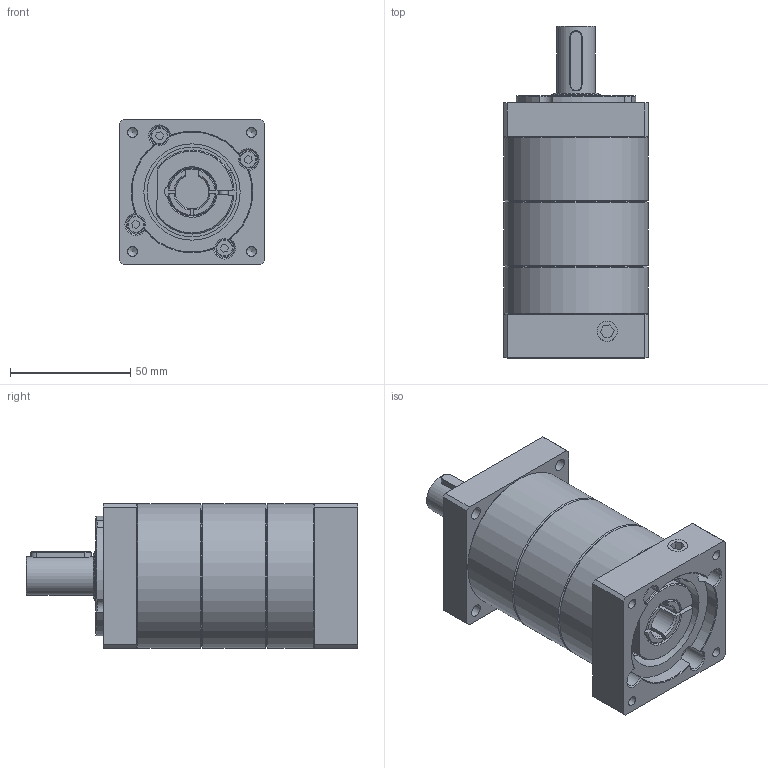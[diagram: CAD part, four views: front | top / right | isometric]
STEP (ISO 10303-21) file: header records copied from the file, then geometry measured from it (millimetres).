
FILE_DESCRIPTION((''),'2;1');
FILE_NAME('D:\T-DATA\Desktop\標準型-型錄用3D\PS60A-2(50&70-M5).stp','2016-10-17T15:10:13',('Administrator'),(''),'Autodesk Inventor 2013','Autodesk Inventor 2013','');
FILE_SCHEMA(('AUTOMOTIVE_DESIGN { 1 0 10303 214 1 1 1 1 }'));
Length unit declared in the file: millimetre
Products named in the file (1): PS60A-2(50&70-M5)
Bounding box: 60 x 138 x 60 mm (x, y, z)
Volume: 300349.4 mm3; surface area: 55494.7 mm2
Topology: 5 solids, 5 shells, 299 faces, 706 edges, 462 vertices
Faces by surface type: plane 151, cylinder 86, cone 50, torus 12
Full cylindrical faces by diameter (mm): 3.3 x1, 4 x5, 4.134 x5, 4.2 x8, 4.3 x1, 5.2 x4, 7 x9, 7.5 x4, 8 x4, 8.356 x1, 8.376 x1, 16 x1, 20 x1, 24.5 x1, 28 x1, 37.4 x1, 40 x1, 42 x1, 45 x2, 60 x3
Entity records: 8287 total; most frequent: CARTESIAN_POINT 1675, DIRECTION 1375, ORIENTED_EDGE 1210, EDGE_CURVE 605, AXIS2_PLACEMENT_3D 540, VERTEX_POINT 444, EDGE_LOOP 443, FACE_OUTER_BOUND 299
